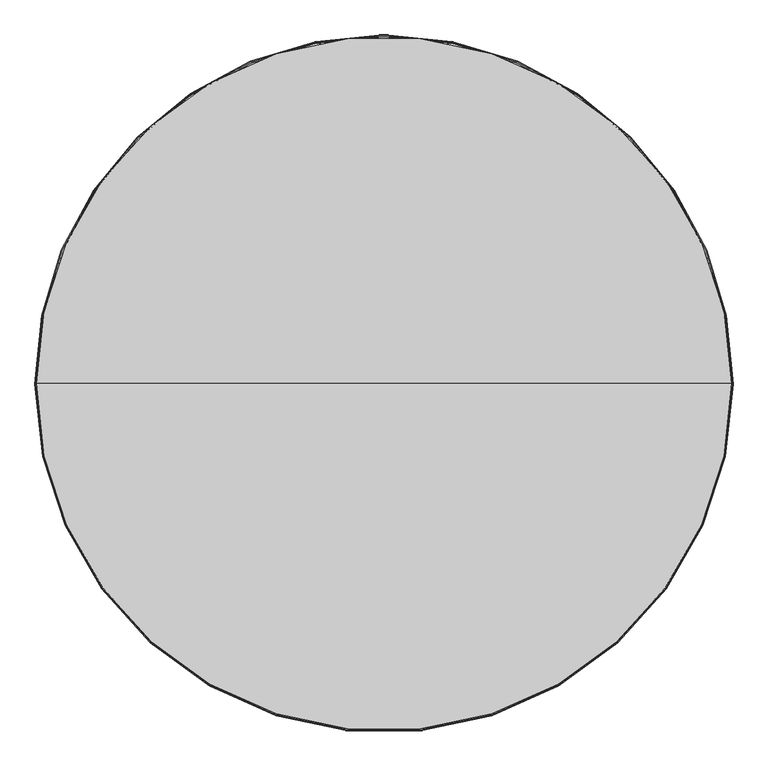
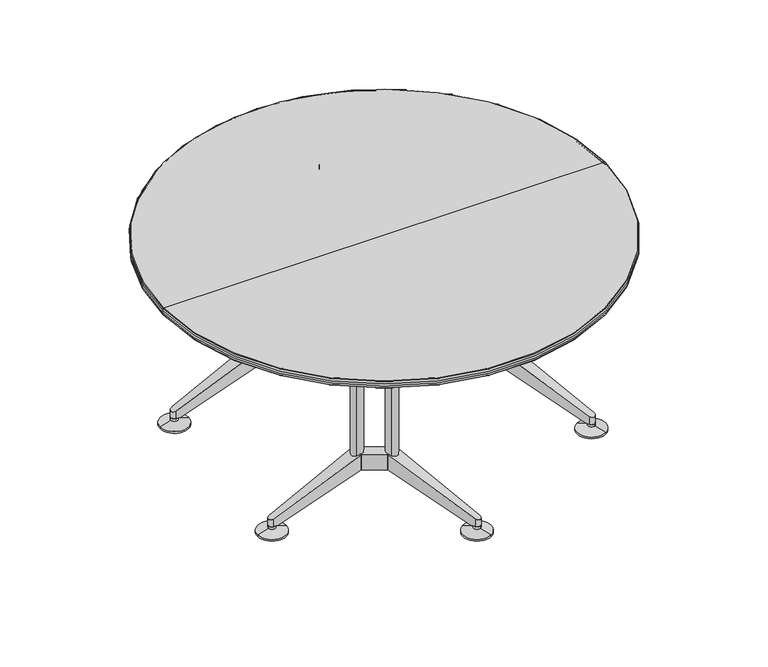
"""IFC4 building model written with IfcOpenShell, lengths in millimetres: furniture geometry, Furniture_Wilkhahn_621-35_Logon Circular Table : Logon 621/35_1550D x 730H."""

from ifc_helpers import new_model, si_unit, point, frame, frame_2d, origin, place, context, project, spatial, polyline, circle_curve, ellipse_curve, trimmed, segment, composite_curve, outline, extrude, source, transform, mapped, element, save
from ifc_brep_helpers import plane_surface, cylinder_surface, revolved_surface, advanced_brep


def furniture_2437987b(model_context):
    return source(origin(), model_context, "Body", "SolidModel", [
        extrude(outline(polyline([(-161.6540581, 420.9454962), (-118.3527879, 395.9454962), (-231.8021158, 330.4454962), (-231.8021158, 380.4454962), (-161.6540581, 420.9454962)])), frame((0.0, 0.0, 140.0), z_axis=(0.0, 0.0, 1.0), x_axis=(1.0, 0.0, 0.0)), (0.0, 0.0, 1.0), 55.0),
        advanced_brep(
        [(-118.3527879, 395.9454962, 195.0), (19.815554, 660.3308471, 56.1717347), (14.996577, 676.9133714, 50.6048844), (-1.7737987, 672.7954657, 56.1717347), (-161.6540581, 420.9454962, 195.0), (-8.7472377, 661.8106174, 27.0), (-1.7737987, 672.7954657, 27.0), (14.996577, 676.9133714, 27.0), (19.815554, 660.3308471, 27.0), (13.7891158, 648.7992476, 27.0), (-161.6540581, 420.9454962, 140.0), (-118.3527879, 395.9454962, 140.0)],
        [
            (0, 1),
            (1, 2, ellipse_curve(frame((8.758758, 666.109152, 56.4159205), z_axis=(0.2111166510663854, 0.3656647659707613, 0.9064871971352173), x_axis=(0.4532435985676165, 0.7850409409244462, -0.4222333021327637)), 13.7626191, 12.475638)),
            (2, 3, ellipse_curve(frame((8.758758, 666.109152, 56.4159205), z_axis=(0.2111166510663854, 0.3656647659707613, 0.9064871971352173), x_axis=(0.4532435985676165, 0.7850409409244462, -0.4222333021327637)), 13.7626191, 12.475638)),
            (3, 4),
            (4, 0),
            (5, 6),
            (6, 7, circle_curve(frame((8.758758, 666.109152, 27.0), z_axis=(0.0, 0.0, -1.0), x_axis=(-0.8660254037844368, 0.5000000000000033, 0.0)), 12.475638)),
            (7, 8, circle_curve(frame((8.758758, 666.109152, 27.0), z_axis=(0.0, 0.0, -1.0), x_axis=(-0.8660254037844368, 0.5000000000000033, 0.0)), 12.475638)),
            (8, 9),
            (9, 5),
            (10, 5),
            (9, 11),
            (11, 10),
            (4, 10),
            (11, 0),
            (3, 6),
            (8, 1),
        ],
        [
            plane_surface(frame((-6.6540581, 689.4133714, 50.6048844), z_axis=(0.21111665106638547, 0.36566476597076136, 0.9064871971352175), x_axis=(0.8660254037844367, -0.5000000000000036, 0.0))),
            plane_surface(frame((-19.1296961, 667.8049325, 27.0), z_axis=(0.0, 0.0, -1.0000000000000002), x_axis=(0.8660254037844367, -0.5000000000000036, 0.0))),
            plane_surface(frame((-161.6540581, 420.9454962, 140.0), z_axis=(-0.18426133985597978, -0.3191500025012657, -0.9296187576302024), x_axis=(0.866025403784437, -0.5000000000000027, 0.0))),
            plane_surface(frame((-161.6540581, 420.9454962, 195.0), z_axis=(-0.5000000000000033, -0.8660254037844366, 0.0), x_axis=(0.8660254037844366, -0.5000000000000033, 0.0))),
            plane_surface(frame((-1.7737987, 672.7954657, 195.0), z_axis=(-0.8442499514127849, 0.5359496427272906, 0.0), x_axis=(0.0, 0.0, -1.0))),
            plane_surface(frame((-118.3527879, 395.9454962, 195.0), z_axis=(0.8862709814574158, -0.4631670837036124, 0.0), x_axis=(0.0, 0.0, -1.0))),
            cylinder_surface(frame((8.758758, 666.109152, 0.0), z_axis=(0.0, 0.0, -1.0), x_axis=(-0.8660254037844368, 0.5000000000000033, 0.0)), 12.475638),
        ],
        [
            (0, [[1, 2, 3, 4, 5]]),
            (1, [[6, 7, 8, 9, 10]]),
            (2, [[11, -10, 12, 13]]),
            (3, [[14, -13, 15, -5]]),
            (4, [[-6, -11, -14, -4, 16]]),
            (5, [[-1, -15, -12, -9, 17]]),
            (6, [[-3, -2, -17, -8, -7, -16]]),
        ],
    ),
        advanced_brep(
        [(-529.3264778, 355.4454962, 0.0), (-479.3264778, 355.4454962, 0.0), (-579.3264778, 355.4454962, 0.0), (-479.3264778, 355.4454962, 6.0), (-579.3264778, 355.4454962, 6.0), (-516.8508397, 355.4454962, 17.0), (-541.8021158, 355.4454962, 17.0), (-516.8508397, 355.4454962, 27.0), (-541.8021158, 355.4454962, 27.0), (-529.3264778, 355.4454962, 27.0)],
        [
            (0, 1),
            (1, 2, circle_curve(frame((-529.3264778, 355.4454962, 0.0), z_axis=(0.0, 0.0, -1.0), x_axis=(-1.0000000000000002, 0.0, 0.0)), 50.0)),
            (2, 0),
            (2, 1, circle_curve(frame((-529.3264778, 355.4454962, 0.0), z_axis=(0.0, 0.0, -1.0), x_axis=(-1.0000000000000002, 0.0, 0.0)), 50.0)),
            (1, 3),
            (3, 4, circle_curve(frame((-529.3264778, 355.4454962, 6.0), z_axis=(0.0, 0.0, -1.0), x_axis=(-1.0000000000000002, 0.0, 0.0)), 50.0)),
            (4, 2),
            (4, 3, circle_curve(frame((-529.3264778, 355.4454962, 6.0), z_axis=(0.0, 0.0, -1.0), x_axis=(-1.0000000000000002, 0.0, 0.0)), 50.0)),
            (3, 5),
            (5, 6, circle_curve(frame((-529.3264778, 355.4454962, 17.0), z_axis=(0.0, 0.0, -1.0), x_axis=(-1.0000000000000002, 0.0, 0.0)), 12.475638)),
            (6, 4),
            (6, 5, circle_curve(frame((-529.3264778, 355.4454962, 17.0), z_axis=(0.0, 0.0, -1.0), x_axis=(-1.0000000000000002, 0.0, 0.0)), 12.475638)),
            (5, 7),
            (7, 8, circle_curve(frame((-529.3264778, 355.4454962, 27.0), z_axis=(0.0, 0.0, -1.0), x_axis=(-1.0000000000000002, 0.0, 0.0)), 12.475638)),
            (8, 6),
            (8, 7, circle_curve(frame((-529.3264778, 355.4454962, 27.0), z_axis=(0.0, 0.0, -1.0), x_axis=(-1.0000000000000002, 0.0, 0.0)), 12.475638)),
            (7, 9),
            (9, 8),
        ],
        [
            plane_surface(frame((-529.3264778, 355.4454962, 0.0), z_axis=(0.0, 0.0, -1.0), x_axis=(-1.0, 0.0, 0.0))),
            cylinder_surface(frame((-529.3264778, 355.4454962, 27.0), z_axis=(0.0, 0.0, -1.0), x_axis=(-1.0000000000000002, 0.0, 0.0)), 50.0),
            revolved_surface(polyline([(-541.8021158, 355.4454962, 17.0), (-579.3264778, 355.4454962, 6.0)]), (-529.3264778, 355.4454962, 27.0), (0.0, 0.0, -1.0)),
            cylinder_surface(frame((-529.3264778, 355.4454962, 27.0), z_axis=(0.0, 0.0, -1.0), x_axis=(-1.0000000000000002, 0.0, 0.0)), 12.475638),
            plane_surface(frame((-529.3264778, 355.4454962, 27.0), z_axis=(0.0, 0.0, 1.0), x_axis=(-1.0, 0.0, 0.0))),
        ],
        [
            (0, [[1, 2, 3]]),
            (0, [[-3, 4, -1]]),
            (1, [[5, 6, 7, -2]]),
            (1, [[-7, 8, -5, -4]]),
            (2, [[9, 10, 11, -6]]),
            (2, [[-11, 12, -9, -8]]),
            (3, [[13, 14, 15, -10]]),
            (3, [[-15, 16, -13, -12]]),
            (4, [[17, 18, -14]]),
            (4, [[-18, -17, -16]]),
        ],
    ),
        advanced_brep(
        [(-16.241242, 622.8078818, 0.0), (8.758758, 666.109152, 0.0), (33.758758, 709.4104221, 0.0), (-16.241242, 622.8078818, 6.0), (33.758758, 709.4104221, 6.0), (2.520939, 655.3049325, 17.0), (14.996577, 676.9133714, 17.0), (2.520939, 655.3049325, 27.0), (14.996577, 676.9133714, 27.0), (8.758758, 666.109152, 27.0)],
        [
            (0, 1),
            (1, 2),
            (2, 0, circle_curve(frame((8.758758, 666.109152, 0.0), z_axis=(0.0, 0.0, -1.0), x_axis=(0.5000000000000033, 0.8660254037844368, 0.0)), 50.0)),
            (0, 2, circle_curve(frame((8.758758, 666.109152, 0.0), z_axis=(0.0, 0.0, -1.0), x_axis=(0.5000000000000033, 0.8660254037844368, 0.0)), 50.0)),
            (3, 0),
            (2, 4),
            (4, 3, circle_curve(frame((8.758758, 666.109152, 6.0), z_axis=(0.0, 0.0, -1.0), x_axis=(0.5000000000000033, 0.8660254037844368, 0.0)), 50.0)),
            (3, 4, circle_curve(frame((8.758758, 666.109152, 6.0), z_axis=(0.0, 0.0, -1.0), x_axis=(0.5000000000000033, 0.8660254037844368, 0.0)), 50.0)),
            (5, 3),
            (4, 6),
            (6, 5, circle_curve(frame((8.758758, 666.109152, 17.0), z_axis=(0.0, 0.0, -1.0), x_axis=(0.5000000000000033, 0.8660254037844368, 0.0)), 12.475638)),
            (5, 6, circle_curve(frame((8.758758, 666.109152, 17.0), z_axis=(0.0, 0.0, -1.0), x_axis=(0.5000000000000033, 0.8660254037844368, 0.0)), 12.475638)),
            (7, 5),
            (6, 8),
            (8, 7, circle_curve(frame((8.758758, 666.109152, 27.0), z_axis=(0.0, 0.0, -1.0), x_axis=(0.5000000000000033, 0.8660254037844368, 0.0)), 12.475638)),
            (7, 8, circle_curve(frame((8.758758, 666.109152, 27.0), z_axis=(0.0, 0.0, -1.0), x_axis=(0.5000000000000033, 0.8660254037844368, 0.0)), 12.475638)),
            (9, 7),
            (8, 9),
        ],
        [
            plane_surface(frame((8.758758, 666.109152, 0.0), z_axis=(0.0, 0.0, -1.0000000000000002), x_axis=(0.5000000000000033, 0.8660254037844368, 0.0))),
            cylinder_surface(frame((8.758758, 666.109152, 27.0), z_axis=(0.0, 0.0, 1.0), x_axis=(0.5000000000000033, 0.8660254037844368, 0.0)), 50.0),
            revolved_surface(polyline([(33.758758, 709.4104221, 6.0), (14.996577, 676.9133714, 17.0)]), (8.758758, 666.109152, 27.0), (0.0, 0.0, 1.0)),
            cylinder_surface(frame((8.758758, 666.109152, 27.0), z_axis=(0.0, 0.0, 1.0), x_axis=(0.5000000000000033, 0.8660254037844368, 0.0)), 12.475638),
            plane_surface(frame((8.758758, 666.109152, 27.0), z_axis=(0.0, 0.0, 1.0000000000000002), x_axis=(0.5000000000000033, 0.8660254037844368, 0.0))),
        ],
        [
            (0, [[1, 2, 3]]),
            (0, [[-2, -1, 4]]),
            (1, [[5, -3, 6, 7]]),
            (1, [[-6, -4, -5, 8]]),
            (2, [[9, -7, 10, 11]]),
            (2, [[-10, -8, -9, 12]]),
            (3, [[13, -11, 14, 15]]),
            (3, [[-14, -12, -13, 16]]),
            (4, [[17, -15, 18]]),
            (4, [[-18, -16, -17]]),
        ],
    ),
        extrude(outline(composite_curve([segment(polyline([(-244.3021158, 377.0961313), (-152.503423, 430.0961313), (-24.6475253, 534.7627561)]), True, "CONTINUOUS"), segment(trimmed(circle_curve(frame_2d((-17.0461814, 525.4773067)), 12.0), [point((-24.6475253, 534.7627561))], [point((-6.6538766, 531.4773067))], False, "CARTESIAN"), True, "CONTINUOUS"), segment(polyline([(-6.6538766, 531.4773067), (33.2200236, 462.4136858)]), True, "CONTINUOUS"), segment(trimmed(circle_curve(frame_2d((22.8277187, 456.4136858)), 12.0), [point((33.2200236, 462.4136858))], [point((27.0684818, 445.1880041))], False, "CARTESIAN"), True, "CONTINUOUS"), segment(polyline([(27.0684818, 445.1880041), (-127.503423, 386.7948611), (-219.3021158, 333.7948611), (-347.1580134, 229.1282364)]), True, "CONTINUOUS"), segment(trimmed(circle_curve(frame_2d((-354.7593573, 238.4136858)), 12.0), [point((-347.1580134, 229.1282364))], [point((-365.1516622, 232.4136858))], False, "CARTESIAN"), True, "CONTINUOUS"), segment(polyline([(-365.1516622, 232.4136858), (-405.0255623, 301.4773067)]), True, "CONTINUOUS"), segment(trimmed(circle_curve(frame_2d((-394.6332574, 307.4773067)), 12.0), [point((-405.0255623, 301.4773067))], [point((-398.8740206, 318.7029883))], False, "CARTESIAN"), True, "CONTINUOUS"), segment(polyline([(-398.8740206, 318.7029883), (-244.3021158, 377.0961313)]), True, "CONTINUOUS")], self_intersect=False)), frame((0.0, 0.0, 675.0), z_axis=(0.0, 0.0, 1.0), x_axis=(1.0, 0.0, 0.0)), (0.0, 0.0, 1.0), 29.0),
        advanced_brep(
        [(-529.8507169, 367.9101148, 56.1717347), (-231.8021158, 380.4454962, 195.0), (-231.8021158, 380.4454962, 140.0), (-516.8508397, 368.456866, 27.0), (-529.8507169, 367.9101148, 27.0), (-529.8507169, 342.9808776, 27.0), (-516.8508397, 342.4341265, 27.0), (-231.8021158, 330.4454962, 140.0), (-231.8021158, 330.4454962, 195.0), (-529.8507169, 342.9808776, 56.1717347), (-541.8021158, 355.4454962, 50.6048844), (-541.8021158, 355.4454962, 27.0)],
        [
            (0, 1),
            (1, 2),
            (2, 3),
            (3, 4),
            (4, 0),
            (5, 6),
            (6, 7),
            (7, 8),
            (8, 9),
            (9, 5),
            (0, 10, ellipse_curve(frame((-529.3264778, 355.4454962, 56.4159205), z_axis=(-0.4222333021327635, 0.0, 0.9064871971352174), x_axis=(-0.9064871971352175, 0.0, -0.4222333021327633)), 13.7626191, 12.475638)),
            (10, 9, ellipse_curve(frame((-529.3264778, 355.4454962, 56.4159205), z_axis=(-0.4222333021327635, 0.0, 0.9064871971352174), x_axis=(-0.9064871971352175, 0.0, -0.4222333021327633)), 13.7626191, 12.475638)),
            (8, 1),
            (5, 11, circle_curve(frame((-529.3264778, 355.4454962, 27.0), z_axis=(0.0, 0.0, -1.0), x_axis=(0.0, 1.0000000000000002, 0.0)), 12.475638)),
            (11, 4, circle_curve(frame((-529.3264778, 355.4454962, 27.0), z_axis=(0.0, 0.0, -1.0), x_axis=(0.0, 1.0000000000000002, 0.0)), 12.475638)),
            (3, 6),
            (2, 7),
        ],
        [
            plane_surface(frame((-231.8021158, 380.4454962, 195.0), z_axis=(-0.04202103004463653, 0.999116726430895, 0.0), x_axis=(0.0, 0.0, -1.0))),
            plane_surface(frame((-529.8507169, 342.9808776, 195.0), z_axis=(-0.042021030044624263, -0.9991167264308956, 0.0), x_axis=(0.0, 0.0, -1.0))),
            plane_surface(frame((-231.8021158, 380.4454962, 195.0), z_axis=(-0.4222333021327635, 0.0, 0.9064871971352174), x_axis=(0.0, -1.0, 0.0))),
            plane_surface(frame((-541.8021158, 380.4454962, 27.0), z_axis=(0.0, 0.0, -1.0), x_axis=(0.0, -1.0, 0.0))),
            plane_surface(frame((-516.8508397, 380.4454962, 27.0), z_axis=(0.36852267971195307, 0.0, -0.9296187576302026), x_axis=(0.0, -1.0, 0.0))),
            cylinder_surface(frame((-529.3264778, 355.4454962, 0.0), z_axis=(0.0, 0.0, -1.0), x_axis=(0.0, 1.0000000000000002, 0.0)), 12.475638),
            plane_surface(frame((-231.8021158, 380.4454962, 140.0), z_axis=(1.0, 0.0, 0.0), x_axis=(0.0, -1.0, 0.0))),
        ],
        [
            (0, [[1, 2, 3, 4, 5]]),
            (1, [[6, 7, 8, 9, 10]]),
            (2, [[-1, 11, 12, -9, 13]]),
            (3, [[-6, 14, 15, -4, 16]]),
            (4, [[-7, -16, -3, 17]]),
            (5, [[-12, -11, -5, -15, -14, -10]]),
            (6, [[-8, -17, -2, -13]]),
        ],
    ),
        extrude(outline(composite_curve([segment(trimmed(circle_curve(frame_2d((-231.8021158, 355.4454962)), 20.0), [point((-221.8021158, 338.1249882))], [point((-241.8021158, 372.7660043))], False, "CARTESIAN"), True, "CONTINUOUS"), segment(trimmed(circle_curve(frame_2d((-231.8021158, 355.4454962)), 20.0), [point((-241.8021158, 372.7660043))], [point((-221.8021158, 338.1249882))], False, "CARTESIAN"), True, "CONTINUOUS")], self_intersect=False)), frame((0.0, 0.0, 140.0), z_axis=(0.0, 0.0, 1.0), x_axis=(1.0, 0.0, 0.0)), (0.0, 0.0, 1.0), 535.0),
        extrude(outline(composite_curve([segment(trimmed(circle_curve(frame_2d((-140.003423, 408.4454962)), 20.0), [point((-130.003423, 391.1249882))], [point((-150.003423, 425.7660043))], False, "CARTESIAN"), True, "CONTINUOUS"), segment(trimmed(circle_curve(frame_2d((-140.003423, 408.4454962)), 20.0), [point((-150.003423, 425.7660043))], [point((-130.003423, 391.1249882))], False, "CARTESIAN"), True, "CONTINUOUS")], self_intersect=False)), frame((0.0, 0.0, 140.0), z_axis=(0.0, 0.0, 1.0), x_axis=(1.0, 0.0, 0.0)), (0.0, 0.0, 1.0), 535.0),
        extrude(outline(polyline([(-261.2481053, -311.5425374), (-261.2481053, -261.5425374), (-147.7987774, -327.0425374), (-191.1000476, -352.0425374), (-261.2481053, -311.5425374)])), frame((0.0, 0.0, 140.0), z_axis=(0.0, 0.0, 1.0), x_axis=(1.0, 0.0, 0.0)), (0.0, 0.0, 1.0), 55.0),
        advanced_brep(
        [(-261.2481053, -261.5425374, 195.0), (-559.2967065, -274.0779188, 56.1717347), (-571.2481053, -286.5425374, 50.6048844), (-559.2967065, -299.007156, 56.1717347), (-261.2481053, -311.5425374, 195.0), (-546.2968293, -299.5539071, 27.0), (-559.2967065, -299.007156, 27.0), (-571.2481053, -286.5425374, 27.0), (-559.2967065, -274.0779188, 27.0), (-546.2968293, -273.5311676, 27.0), (-261.2481053, -311.5425374, 140.0), (-261.2481053, -261.5425374, 140.0)],
        [
            (0, 1),
            (1, 2, ellipse_curve(frame((-558.7724673, -286.5425374, 56.4159205), z_axis=(-0.42223330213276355, 0.0, 0.9064871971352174), x_axis=(-0.9064871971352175, 0.0, -0.4222333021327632)), 13.7626191, 12.475638)),
            (2, 3, ellipse_curve(frame((-558.7724673, -286.5425374, 56.4159205), z_axis=(-0.42223330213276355, 0.0, 0.9064871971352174), x_axis=(-0.9064871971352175, 0.0, -0.4222333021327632)), 13.7626191, 12.475638)),
            (3, 4),
            (4, 0),
            (5, 6),
            (6, 7, circle_curve(frame((-558.7724673, -286.5425374, 27.0), z_axis=(0.0, 0.0, -1.0), x_axis=(0.0, -1.0, 0.0)), 12.475638)),
            (7, 8, circle_curve(frame((-558.7724673, -286.5425374, 27.0), z_axis=(0.0, 0.0, -1.0), x_axis=(0.0, -1.0, 0.0)), 12.475638)),
            (8, 9),
            (9, 5),
            (10, 5),
            (9, 11),
            (11, 10),
            (4, 10),
            (11, 0),
            (3, 6),
            (8, 1),
        ],
        [
            plane_surface(frame((-571.2481053, -311.5425374, 50.6048844), z_axis=(-0.42223330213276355, 0.0, 0.9064871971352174), x_axis=(0.0, 1.0, 0.0))),
            plane_surface(frame((-546.2968293, -311.5425374, 27.0), z_axis=(0.0, 0.0, -1.0), x_axis=(0.0, 1.0, 0.0))),
            plane_surface(frame((-261.2481053, -311.5425374, 140.0), z_axis=(0.3685226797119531, 0.0, -0.9296187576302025), x_axis=(0.0, 1.0, 0.0))),
            plane_surface(frame((-261.2481053, -311.5425374, 195.0), z_axis=(1.0, 0.0, 0.0), x_axis=(0.0, 1.0, 0.0))),
            plane_surface(frame((-559.2967065, -299.007156, 195.0), z_axis=(-0.04202103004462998, -0.9991167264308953, 0.0), x_axis=(0.0, 0.0, -1.0))),
            plane_surface(frame((-261.2481053, -261.5425374, 195.0), z_axis=(-0.042021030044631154, 0.9991167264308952, 0.0), x_axis=(0.0, 0.0, -1.0))),
            cylinder_surface(frame((-558.7724673, -286.5425374, 0.0), z_axis=(0.0, 0.0, -1.0), x_axis=(0.0, -1.0, 0.0)), 12.475638),
        ],
        [
            (0, [[1, 2, 3, 4, 5]]),
            (1, [[6, 7, 8, 9, 10]]),
            (2, [[11, -10, 12, 13]]),
            (3, [[14, -13, 15, -5]]),
            (4, [[-6, -11, -14, -4, 16]]),
            (5, [[-1, -15, -12, -9, 17]]),
            (6, [[-3, -2, -17, -8, -7, -16]]),
        ],
    ),
        advanced_brep(
        [(-20.6872315, -597.2061931, 0.0), (-45.6872315, -553.9049229, 0.0), (4.3127685, -640.5074633, 0.0), (-45.6872315, -553.9049229, 6.0), (4.3127685, -640.5074633, 6.0), (-26.9250505, -586.4019737, 17.0), (-14.4494125, -608.0104125, 17.0), (-26.9250505, -586.4019737, 27.0), (-14.4494125, -608.0104125, 27.0), (-20.6872315, -597.2061931, 27.0)],
        [
            (0, 1),
            (1, 2, circle_curve(frame((-20.6872315, -597.2061931, 0.0), z_axis=(0.0, 0.0, -1.0), x_axis=(0.500000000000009, -0.8660254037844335, 0.0)), 50.0)),
            (2, 0),
            (2, 1, circle_curve(frame((-20.6872315, -597.2061931, 0.0), z_axis=(0.0, 0.0, -1.0), x_axis=(0.500000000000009, -0.8660254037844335, 0.0)), 50.0)),
            (1, 3),
            (3, 4, circle_curve(frame((-20.6872315, -597.2061931, 6.0), z_axis=(0.0, 0.0, -1.0), x_axis=(0.500000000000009, -0.8660254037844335, 0.0)), 50.0)),
            (4, 2),
            (4, 3, circle_curve(frame((-20.6872315, -597.2061931, 6.0), z_axis=(0.0, 0.0, -1.0), x_axis=(0.500000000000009, -0.8660254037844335, 0.0)), 50.0)),
            (3, 5),
            (5, 6, circle_curve(frame((-20.6872315, -597.2061931, 17.0), z_axis=(0.0, 0.0, -1.0), x_axis=(0.500000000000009, -0.8660254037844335, 0.0)), 12.475638)),
            (6, 4),
            (6, 5, circle_curve(frame((-20.6872315, -597.2061931, 17.0), z_axis=(0.0, 0.0, -1.0), x_axis=(0.500000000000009, -0.8660254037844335, 0.0)), 12.475638)),
            (5, 7),
            (7, 8, circle_curve(frame((-20.6872315, -597.2061931, 27.0), z_axis=(0.0, 0.0, -1.0), x_axis=(0.500000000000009, -0.8660254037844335, 0.0)), 12.475638)),
            (8, 6),
            (8, 7, circle_curve(frame((-20.6872315, -597.2061931, 27.0), z_axis=(0.0, 0.0, -1.0), x_axis=(0.500000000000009, -0.8660254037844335, 0.0)), 12.475638)),
            (7, 9),
            (9, 8),
        ],
        [
            plane_surface(frame((-20.6872315, -597.2061931, 0.0), z_axis=(0.0, 0.0, -1.0), x_axis=(0.500000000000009, -0.8660254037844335, 0.0))),
            cylinder_surface(frame((-20.6872315, -597.2061931, 27.0), z_axis=(0.0, 0.0, -1.0), x_axis=(0.500000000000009, -0.8660254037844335, 0.0)), 50.0),
            revolved_surface(polyline([(-14.4494125, -608.0104125, 17.0), (4.3127685, -640.5074633, 6.0)]), (-20.6872315, -597.2061931, 27.0), (0.0, 0.0, -1.0)),
            cylinder_surface(frame((-20.6872315, -597.2061931, 27.0), z_axis=(0.0, 0.0, -1.0), x_axis=(0.500000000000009, -0.8660254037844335, 0.0)), 12.475638),
            plane_surface(frame((-20.6872315, -597.2061931, 27.0), z_axis=(0.0, 0.0, 1.0), x_axis=(0.500000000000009, -0.8660254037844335, 0.0))),
        ],
        [
            (0, [[1, 2, 3]]),
            (0, [[-3, 4, -1]]),
            (1, [[5, 6, 7, -2]]),
            (1, [[-7, 8, -5, -4]]),
            (2, [[9, 10, 11, -6]]),
            (2, [[-11, 12, -9, -8]]),
            (3, [[13, 14, 15, -10]]),
            (3, [[-15, 16, -13, -12]]),
            (4, [[17, 18, -14]]),
            (4, [[-18, -17, -16]]),
        ],
    ),
        advanced_brep(
        [(-508.7724673, -286.5425374, 0.0), (-558.7724673, -286.5425374, 0.0), (-608.7724673, -286.5425374, 0.0), (-508.7724673, -286.5425374, 6.0), (-608.7724673, -286.5425374, 6.0), (-546.2968293, -286.5425374, 17.0), (-571.2481053, -286.5425374, 17.0), (-546.2968293, -286.5425374, 27.0), (-571.2481053, -286.5425374, 27.0), (-558.7724673, -286.5425374, 27.0)],
        [
            (0, 1),
            (1, 2),
            (2, 0, circle_curve(frame((-558.7724673, -286.5425374, 0.0), z_axis=(0.0, 0.0, -1.0), x_axis=(-1.0, 0.0, 0.0)), 50.0)),
            (0, 2, circle_curve(frame((-558.7724673, -286.5425374, 0.0), z_axis=(0.0, 0.0, -1.0), x_axis=(-1.0, 0.0, 0.0)), 50.0)),
            (3, 0),
            (2, 4),
            (4, 3, circle_curve(frame((-558.7724673, -286.5425374, 6.0), z_axis=(0.0, 0.0, -1.0), x_axis=(-1.0, 0.0, 0.0)), 50.0)),
            (3, 4, circle_curve(frame((-558.7724673, -286.5425374, 6.0), z_axis=(0.0, 0.0, -1.0), x_axis=(-1.0, 0.0, 0.0)), 50.0)),
            (5, 3),
            (4, 6),
            (6, 5, circle_curve(frame((-558.7724673, -286.5425374, 17.0), z_axis=(0.0, 0.0, -1.0), x_axis=(-1.0, 0.0, 0.0)), 12.475638)),
            (5, 6, circle_curve(frame((-558.7724673, -286.5425374, 17.0), z_axis=(0.0, 0.0, -1.0), x_axis=(-1.0, 0.0, 0.0)), 12.475638)),
            (7, 5),
            (6, 8),
            (8, 7, circle_curve(frame((-558.7724673, -286.5425374, 27.0), z_axis=(0.0, 0.0, -1.0), x_axis=(-1.0, 0.0, 0.0)), 12.475638)),
            (7, 8, circle_curve(frame((-558.7724673, -286.5425374, 27.0), z_axis=(0.0, 0.0, -1.0), x_axis=(-1.0, 0.0, 0.0)), 12.475638)),
            (9, 7),
            (8, 9),
        ],
        [
            plane_surface(frame((-558.7724673, -286.5425374, 0.0), z_axis=(0.0, 0.0, -1.0), x_axis=(-1.0, 0.0, 0.0))),
            cylinder_surface(frame((-558.7724673, -286.5425374, 27.0), z_axis=(0.0, 0.0, 1.0), x_axis=(-1.0, 0.0, 0.0)), 50.0),
            revolved_surface(polyline([(-608.7724673, -286.5425374, 6.0), (-571.2481053, -286.5425374, 17.0)]), (-558.7724673, -286.5425374, 27.0), (0.0, 0.0, 1.0)),
            cylinder_surface(frame((-558.7724673, -286.5425374, 27.0), z_axis=(0.0, 0.0, 1.0), x_axis=(-1.0, 0.0, 0.0)), 12.475638),
            plane_surface(frame((-558.7724673, -286.5425374, 27.0), z_axis=(0.0, 0.0, 1.0), x_axis=(-1.0, 0.0, 0.0))),
        ],
        [
            (0, [[1, 2, 3]]),
            (0, [[-2, -1, 4]]),
            (1, [[5, -3, 6, 7]]),
            (1, [[-6, -4, -5, 8]]),
            (2, [[9, -7, 10, 11]]),
            (2, [[-10, -8, -9, 12]]),
            (3, [[13, -11, 14, 15]]),
            (3, [[-14, -12, -13, 16]]),
            (4, [[17, -15, 18]]),
            (4, [[-18, -16, -17]]),
        ],
    ),
        extrude(outline(composite_curve([segment(polyline([(-181.9494125, -361.1931725), (-273.7481053, -308.1931725), (-428.3200101, -249.8000295)]), True, "CONTINUOUS"), segment(trimmed(circle_curve(frame_2d((-424.079247, -238.5743478)), 12.0), [point((-428.3200101, -249.8000295))], [point((-434.4715518, -232.5743478))], False, "CARTESIAN"), True, "CONTINUOUS"), segment(polyline([(-434.4715518, -232.5743478), (-394.5976517, -163.5107269)]), True, "CONTINUOUS"), segment(trimmed(circle_curve(frame_2d((-384.2053469, -169.5107269)), 12.0), [point((-394.5976517, -163.5107269))], [point((-376.604003, -160.2252775))], False, "CARTESIAN"), True, "CONTINUOUS"), segment(polyline([(-376.604003, -160.2252775), (-248.7481053, -264.8919023), (-156.9494125, -317.8919023), (-2.3775077, -376.2850453)]), True, "CONTINUOUS"), segment(trimmed(circle_curve(frame_2d((-6.6182708, -387.5107269)), 12.0), [point((-2.3775077, -376.2850453))], [point((3.774034, -393.5107269))], False, "CARTESIAN"), True, "CONTINUOUS"), segment(polyline([(3.774034, -393.5107269), (-36.0998661, -462.5743478)]), True, "CONTINUOUS"), segment(trimmed(circle_curve(frame_2d((-46.492171, -456.5743478)), 12.0), [point((-36.0998661, -462.5743478))], [point((-54.0935149, -465.8597972))], False, "CARTESIAN"), True, "CONTINUOUS"), segment(polyline([(-54.0935149, -465.8597972), (-181.9494125, -361.1931725)]), True, "CONTINUOUS")], self_intersect=False)), frame((0.0, 0.0, 675.0), z_axis=(0.0, 0.0, 1.0), x_axis=(1.0, 0.0, 0.0)), (0.0, 0.0, 1.0), 29.0),
        advanced_brep(
        [(-31.2197883, -603.8925068, 56.1717347), (-191.1000476, -352.0425374, 195.0), (-191.1000476, -352.0425374, 140.0), (-38.1932273, -592.9076585, 27.0), (-31.2197883, -603.8925068, 27.0), (-9.6304356, -591.4278882, 27.0), (-15.6568738, -579.8962888, 27.0), (-147.7987774, -327.0425374, 140.0), (-147.7987774, -327.0425374, 195.0), (-9.6304356, -591.4278882, 56.1717347), (-14.4494125, -608.0104125, 50.6048844), (-14.4494125, -608.0104125, 27.0)],
        [
            (0, 1),
            (1, 2),
            (2, 3),
            (3, 4),
            (4, 0),
            (5, 6),
            (6, 7),
            (7, 8),
            (8, 9),
            (9, 5),
            (0, 10, ellipse_curve(frame((-20.6872315, -597.2061931, 56.4159205), z_axis=(0.2111166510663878, -0.36566476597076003, 0.9064871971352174), x_axis=(0.4532435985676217, -0.7850409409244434, -0.4222333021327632)), 13.7626191, 12.475638)),
            (10, 9, ellipse_curve(frame((-20.6872315, -597.2061931, 56.4159205), z_axis=(0.2111166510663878, -0.36566476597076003, 0.9064871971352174), x_axis=(0.4532435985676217, -0.7850409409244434, -0.4222333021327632)), 13.7626191, 12.475638)),
            (8, 1),
            (5, 11, circle_curve(frame((-20.6872315, -597.2061931, 27.0), z_axis=(0.0, 0.0, -1.0), x_axis=(-0.8660254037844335, -0.500000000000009, 0.0)), 12.475638)),
            (11, 4, circle_curve(frame((-20.6872315, -597.2061931, 27.0), z_axis=(0.0, 0.0, -1.0), x_axis=(-0.8660254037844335, -0.500000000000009, 0.0)), 12.475638)),
            (3, 6),
            (2, 7),
        ],
        [
            plane_surface(frame((-191.1000476, -352.0425374, 195.0), z_axis=(-0.8442499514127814, -0.5359496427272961, 0.0), x_axis=(0.0, 0.0, -1.0))),
            plane_surface(frame((-9.6304356, -591.4278882, 195.0), z_axis=(0.8862709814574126, 0.4631670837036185, 0.0), x_axis=(0.0, 0.0, -1.0))),
            plane_surface(frame((-191.1000476, -352.0425374, 195.0), z_axis=(0.2111166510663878, -0.36566476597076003, 0.9064871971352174), x_axis=(0.8660254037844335, 0.500000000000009, 0.0))),
            plane_surface(frame((-36.1000476, -620.5104125, 27.0), z_axis=(0.0, 0.0, -0.9999999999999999), x_axis=(0.8660254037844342, 0.5000000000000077, 0.0))),
            plane_surface(frame((-48.5756856, -598.9019737, 27.0), z_axis=(-0.18426133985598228, 0.3191500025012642, -0.9296187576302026), x_axis=(0.8660254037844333, 0.5000000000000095, 0.0))),
            cylinder_surface(frame((-20.6872315, -597.2061931, 0.0), z_axis=(0.0, 0.0, -1.0), x_axis=(-0.8660254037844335, -0.500000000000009, 0.0)), 12.475638),
            plane_surface(frame((-191.1000476, -352.0425374, 140.0), z_axis=(-0.5000000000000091, 0.8660254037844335, 0.0), x_axis=(0.8660254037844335, 0.5000000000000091, 0.0))),
        ],
        [
            (0, [[1, 2, 3, 4, 5]]),
            (1, [[6, 7, 8, 9, 10]]),
            (2, [[-1, 11, 12, -9, 13]]),
            (3, [[-6, 14, 15, -4, 16]]),
            (4, [[-7, -16, -3, 17]]),
            (5, [[-12, -11, -5, -15, -14, -10]]),
            (6, [[-8, -17, -2, -13]]),
        ],
    ),
        extrude(outline(composite_curve([segment(trimmed(circle_curve(frame_2d((-169.4494125, -339.5425374)), 20.0), [point((-159.4494125, -322.2220293))], [point((-179.4494125, -356.8630454))], False, "CARTESIAN"), True, "CONTINUOUS"), segment(trimmed(circle_curve(frame_2d((-169.4494125, -339.5425374)), 20.0), [point((-179.4494125, -356.8630454))], [point((-159.4494125, -322.2220293))], False, "CARTESIAN"), True, "CONTINUOUS")], self_intersect=False)), frame((0.0, 0.0, 140.0), z_axis=(0.0, 0.0, 1.0), x_axis=(1.0, 0.0, 0.0)), (0.0, 0.0, 1.0), 535.0),
        extrude(outline(composite_curve([segment(trimmed(circle_curve(frame_2d((-261.2481053, -286.5425374)), 20.0), [point((-251.2481053, -269.2220293))], [point((-271.2481053, -303.8630454))], False, "CARTESIAN"), True, "CONTINUOUS"), segment(trimmed(circle_curve(frame_2d((-261.2481053, -286.5425374)), 20.0), [point((-271.2481053, -303.8630454))], [point((-251.2481053, -269.2220293))], False, "CARTESIAN"), True, "CONTINUOUS")], self_intersect=False)), frame((0.0, 0.0, 140.0), z_axis=(0.0, 0.0, 1.0), x_axis=(1.0, 0.0, 0.0)), (0.0, 0.0, 1.0), 535.0),
        advanced_brep(
        [(-0.9927826, -1.7695269, 703.9999792), (770.2552808, -1.7695269, 703.9999792), (-772.240846, -1.7695269, 703.9999792), (-772.240846, -1.7695269, 730.0), (770.2552808, -1.7695269, 730.0), (-0.9927826, -1.7695269, 730.0), (-773.6834022, -1.7695269, 728.7664759), (771.697837, -1.7695269, 728.7664759), (-774.4937679, -1.7695269, 720.5783163), (772.5082027, -1.7695269, 720.5783163), (-774.4937679, -1.7695269, 713.4216629), (772.5082027, -1.7695269, 713.4216629), (-773.6834022, -1.7695269, 705.2335033), (771.697837, -1.7695269, 705.2335033)],
        [
            (0, 1),
            (1, 2, circle_curve(frame((-0.9927826, -1.7695269, 703.9999792), z_axis=(0.0, 0.0, -1.0), x_axis=(1.0, 0.0, 0.0)), 771.2480634)),
            (2, 0),
            (2, 1, circle_curve(frame((-0.9927826, -1.7695269, 703.9999792), z_axis=(0.0, 0.0, -1.0), x_axis=(1.0, 0.0, 0.0)), 771.2480634)),
            (3, 4, circle_curve(frame((-0.9927826, -1.7695269, 730.0), z_axis=(0.0, 0.0, 1.0), x_axis=(1.0, 0.0, 0.0)), 771.2480634)),
            (4, 5),
            (5, 3),
            (4, 3, circle_curve(frame((-0.9927826, -1.7695269, 730.0), z_axis=(0.0, 0.0, 1.0), x_axis=(1.0, 0.0, 0.0)), 771.2480634)),
            (6, 7, circle_curve(frame((-0.9927826, -1.7695269, 728.7664759), z_axis=(0.0, 0.0, 1.0), x_axis=(1.0, 0.0, 0.0)), 772.6906196)),
            (7, 4, circle_curve(frame((770.2552808, -1.7695269, 728.5397326), z_axis=(0.0, -1.0, 0.0), x_axis=(-1.0, 0.0, 0.0)), 1.4602674)),
            (3, 6, circle_curve(frame((-772.240846, -1.7695269, 728.5397326), z_axis=(0.0, -1.0, 0.0), x_axis=(1.0, 0.0, 0.0)), 1.4602674)),
            (7, 6, circle_curve(frame((-0.9927826, -1.7695269, 728.7664759), z_axis=(0.0, 0.0, 1.0), x_axis=(1.0, 0.0, 0.0)), 772.6906196)),
            (8, 9, circle_curve(frame((-0.9927826, -1.7695269, 720.5783163), z_axis=(0.0, 0.0, 1.0), x_axis=(1.0, 0.0, 0.0)), 773.5009853)),
            (9, 7, circle_curve(frame((700.6803884, -1.7695269, 717.6038415), z_axis=(0.0, -1.0, 0.0), x_axis=(-1.0, 0.0, 0.0)), 71.8893762)),
            (6, 8, circle_curve(frame((-702.6659536, -1.7695269, 717.6038415), z_axis=(0.0, -1.0, 0.0), x_axis=(1.0, 0.0, 0.0)), 71.8893762)),
            (9, 8, circle_curve(frame((-0.9927826, -1.7695269, 720.5783163), z_axis=(0.0, 0.0, 1.0), x_axis=(1.0, 0.0, 0.0)), 773.5009853)),
            (10, 11, circle_curve(frame((-0.9927826, -1.7695269, 713.4216629), z_axis=(0.0, 0.0, 1.0), x_axis=(1.0, 0.0, 0.0)), 773.5009853)),
            (11, 9, circle_curve(frame((769.0378473, -1.7695269, 716.9999896), z_axis=(0.0, -1.0, 0.0), x_axis=(-1.0, 0.0, 0.0)), 4.9847556)),
            (8, 10, circle_curve(frame((-771.0234125, -1.7695269, 716.9999896), z_axis=(0.0, -1.0, 0.0), x_axis=(1.0, 0.0, 0.0)), 4.9847556)),
            (11, 10, circle_curve(frame((-0.9927826, -1.7695269, 713.4216629), z_axis=(0.0, 0.0, 1.0), x_axis=(1.0, 0.0, 0.0)), 773.5009853)),
            (12, 13, circle_curve(frame((-0.9927826, -1.7695269, 705.2335033), z_axis=(0.0, 0.0, 1.0), x_axis=(1.0, 0.0, 0.0)), 772.6906196)),
            (13, 11, circle_curve(frame((700.6803884, -1.7695269, 716.3961377), z_axis=(0.0, -1.0, 0.0), x_axis=(-1.0, 0.0, 0.0)), 71.8893762)),
            (10, 12, circle_curve(frame((-702.6659536, -1.7695269, 716.3961377), z_axis=(0.0, -1.0, 0.0), x_axis=(1.0, 0.0, 0.0)), 71.8893762)),
            (13, 12, circle_curve(frame((-0.9927826, -1.7695269, 705.2335033), z_axis=(0.0, 0.0, 1.0), x_axis=(1.0, 0.0, 0.0)), 772.6906196)),
            (1, 13, circle_curve(frame((770.2552808, -1.7695269, 705.4602466), z_axis=(0.0, -1.0, 0.0), x_axis=(-1.0, 0.0, 0.0)), 1.4602674)),
            (12, 2, circle_curve(frame((-772.240846, -1.7695269, 705.4602466), z_axis=(0.0, -1.0, 0.0), x_axis=(1.0, 0.0, 0.0)), 1.4602674)),
        ],
        [
            plane_surface(frame((-0.9927826, -1.7695269, 703.9999792), z_axis=(0.0, 0.0, -1.0), x_axis=(1.0, 0.0, 0.0))),
            plane_surface(frame((-0.9927826, -1.7695269, 730.0), z_axis=(0.0, 0.0, 1.0), x_axis=(1.0, 0.0, 0.0))),
            revolved_surface(trimmed(ellipse_curve(frame((770.2552808, -1.7695269, 728.5397326), z_axis=(0.0, 1.0, 0.0), x_axis=(-1.0, 0.0, 0.0)), 1.4602674, 1.4602674), [point((770.2552808, -1.7695269, 730.0))], [point((771.697837, -1.7695269, 728.7664759))], True, "CARTESIAN"), (-0.9927826, -1.7695269, 790.0), (0.0, 0.0, -1.0)),
            revolved_surface(trimmed(ellipse_curve(frame((700.6803884, -1.7695269, 717.6038415), z_axis=(0.0, 1.0, 0.0), x_axis=(-1.0, 0.0, 0.0)), 71.8893762, 71.8893762), [point((771.697837, -1.7695269, 728.7664759))], [point((772.5082027, -1.7695269, 720.5783163))], True, "CARTESIAN"), (-0.9927826, -1.7695269, 790.0), (0.0, 0.0, -1.0)),
            revolved_surface(trimmed(ellipse_curve(frame((769.0378473, -1.7695269, 716.9999896), z_axis=(0.0, 1.0, 0.0), x_axis=(-1.0, 0.0, 0.0)), 4.9847556, 4.9847556), [point((772.5082027, -1.7695269, 720.5783163))], [point((772.5082027, -1.7695269, 713.4216629))], True, "CARTESIAN"), (-0.9927826, -1.7695269, 790.0), (0.0, 0.0, -1.0)),
            revolved_surface(trimmed(ellipse_curve(frame((700.6803884, -1.7695269, 716.3961377), z_axis=(0.0, 1.0, 0.0), x_axis=(-1.0, 0.0, 0.0)), 71.8893762, 71.8893762), [point((772.5082027, -1.7695269, 713.4216629))], [point((771.697837, -1.7695269, 705.2335033))], True, "CARTESIAN"), (-0.9927826, -1.7695269, 790.0), (0.0, 0.0, -1.0)),
            revolved_surface(trimmed(ellipse_curve(frame((770.2552808, -1.7695269, 705.4602466), z_axis=(0.0, 1.0, 0.0), x_axis=(-1.0, 0.0, 0.0)), 1.4602674, 1.4602674), [point((771.697837, -1.7695269, 705.2335033))], [point((770.2552808, -1.7695269, 703.9999792))], True, "CARTESIAN"), (-0.9927826, -1.7695269, 790.0), (0.0, 0.0, -1.0)),
        ],
        [
            (0, [[1, 2, 3]]),
            (0, [[-3, 4, -1]]),
            (1, [[5, 6, 7]]),
            (1, [[8, -7, -6]]),
            (2, [[9, 10, -5, 11]]),
            (2, [[12, -11, -8, -10]]),
            (3, [[13, 14, -9, 15]]),
            (3, [[16, -15, -12, -14]]),
            (4, [[17, 18, -13, 19]]),
            (4, [[20, -19, -16, -18]]),
            (5, [[21, 22, -17, 23]]),
            (5, [[24, -23, -20, -22]]),
            (6, [[-2, 25, -21, 26]]),
            (6, [[-4, -26, -24, -25]]),
        ],
    ),
        extrude(outline(polyline([(422.9021634, -31.5494956), (379.6008932, -56.5494956), (379.6008932, 74.4505044), (422.9021634, 49.4505044), (422.9021634, -31.5494956)])), frame((0.0, 0.0, 140.0), z_axis=(0.0, 0.0, 1.0), x_axis=(1.0, 0.0, 0.0)), (0.0, 0.0, 1.0), 55.0),
        advanced_brep(
        [(379.6008932, -56.5494956, 195.0), (539.4811525, -308.399465, 56.1717347), (556.2515283, -312.5173707, 50.6048844), (561.0705052, -295.9348464, 56.1717347), (422.9021634, -31.5494956, 195.0), (555.044067, -284.403247, 27.0), (561.0705052, -295.9348464, 27.0), (556.2515283, -312.5173707, 27.0), (539.4811525, -308.399465, 27.0), (532.5077135, -297.4146167, 27.0), (422.9021634, -31.5494956, 140.0), (379.6008932, -56.5494956, 140.0)],
        [
            (0, 1),
            (1, 2, ellipse_curve(frame((550.0137093, -301.7131513, 56.4159205), z_axis=(0.2111166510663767, -0.36566476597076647, 0.9064871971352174), x_axis=(0.45324359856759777, -0.7850409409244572, -0.42223330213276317)), 13.7626191, 12.475638)),
            (2, 3, ellipse_curve(frame((550.0137093, -301.7131513, 56.4159205), z_axis=(0.2111166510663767, -0.36566476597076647, 0.9064871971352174), x_axis=(0.45324359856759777, -0.7850409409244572, -0.42223330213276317)), 13.7626191, 12.475638)),
            (3, 4),
            (4, 0),
            (5, 6),
            (6, 7, circle_curve(frame((550.0137093, -301.7131513, 27.0), z_axis=(0.0, 0.0, -1.0), x_axis=(0.8660254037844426, 0.49999999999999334, 0.0)), 12.475638)),
            (7, 8, circle_curve(frame((550.0137093, -301.7131513, 27.0), z_axis=(0.0, 0.0, -1.0), x_axis=(0.8660254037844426, 0.49999999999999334, 0.0)), 12.475638)),
            (8, 9),
            (9, 5),
            (10, 5),
            (9, 11),
            (11, 10),
            (4, 10),
            (11, 0),
            (3, 6),
            (8, 1),
        ],
        [
            plane_surface(frame((577.9021634, -300.0173707, 50.6048844), z_axis=(0.2111166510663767, -0.36566476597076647, 0.9064871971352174), x_axis=(-0.8660254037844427, -0.4999999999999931, 0.0))),
            plane_surface(frame((565.4265254, -278.4089319, 27.0), z_axis=(0.0, 0.0, -1.0), x_axis=(-0.8660254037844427, -0.4999999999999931, 0.0))),
            plane_surface(frame((422.9021634, -31.5494956, 140.0), z_axis=(-0.1842613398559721, 0.3191500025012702, -0.9296187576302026), x_axis=(-0.8660254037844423, -0.49999999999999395, 0.0))),
            plane_surface(frame((422.9021634, -31.5494956, 195.0), z_axis=(-0.4999999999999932, 0.8660254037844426, 0.0), x_axis=(-0.8660254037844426, -0.4999999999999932, 0.0))),
            plane_surface(frame((561.0705052, -295.9348464, 195.0), z_axis=(0.8862709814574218, 0.4631670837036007, 0.0), x_axis=(0.0, 0.0, -1.0))),
            plane_surface(frame((379.6008932, -56.5494956, 195.0), z_axis=(-0.8442499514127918, -0.5359496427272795, 0.0), x_axis=(0.0, 0.0, -1.0))),
            cylinder_surface(frame((550.0137093, -301.7131513, 0.0), z_axis=(0.0, 0.0, -1.0000000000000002), x_axis=(0.8660254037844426, 0.49999999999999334, 0.0)), 12.475638),
        ],
        [
            (0, [[1, 2, 3, 4, 5]]),
            (1, [[6, 7, 8, 9, 10]]),
            (2, [[11, -10, 12, 13]]),
            (3, [[14, -13, 15, -5]]),
            (4, [[-6, -11, -14, -4, 16]]),
            (5, [[-1, -15, -12, -9, 17]]),
            (6, [[-3, -2, -17, -8, -7, -16]]),
        ],
    ),
        advanced_brep(
        [(550.0137093, 319.6141602, 0.0), (525.0137093, 276.31289, 0.0), (575.0137093, 362.9154304, 0.0), (525.0137093, 276.31289, 6.0), (575.0137093, 362.9154304, 6.0), (543.7758903, 308.8099407, 17.0), (556.2515283, 330.4183796, 17.0), (543.7758903, 308.8099407, 27.0), (556.2515283, 330.4183796, 27.0), (550.0137093, 319.6141602, 27.0)],
        [
            (0, 1),
            (1, 2, circle_curve(frame((550.0137093, 319.6141602, 0.0), z_axis=(0.0, 0.0, -1.0), x_axis=(0.499999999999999, 0.8660254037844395, 0.0)), 50.0)),
            (2, 0),
            (2, 1, circle_curve(frame((550.0137093, 319.6141602, 0.0), z_axis=(0.0, 0.0, -1.0), x_axis=(0.499999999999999, 0.8660254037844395, 0.0)), 50.0)),
            (1, 3),
            (3, 4, circle_curve(frame((550.0137093, 319.6141602, 6.0), z_axis=(0.0, 0.0, -1.0), x_axis=(0.499999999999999, 0.8660254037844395, 0.0)), 50.0)),
            (4, 2),
            (4, 3, circle_curve(frame((550.0137093, 319.6141602, 6.0), z_axis=(0.0, 0.0, -1.0), x_axis=(0.499999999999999, 0.8660254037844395, 0.0)), 50.0)),
            (3, 5),
            (5, 6, circle_curve(frame((550.0137093, 319.6141602, 17.0), z_axis=(0.0, 0.0, -1.0), x_axis=(0.499999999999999, 0.8660254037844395, 0.0)), 12.475638)),
            (6, 4),
            (6, 5, circle_curve(frame((550.0137093, 319.6141602, 17.0), z_axis=(0.0, 0.0, -1.0), x_axis=(0.499999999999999, 0.8660254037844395, 0.0)), 12.475638)),
            (5, 7),
            (7, 8, circle_curve(frame((550.0137093, 319.6141602, 27.0), z_axis=(0.0, 0.0, -1.0), x_axis=(0.499999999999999, 0.8660254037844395, 0.0)), 12.475638)),
            (8, 6),
            (8, 7, circle_curve(frame((550.0137093, 319.6141602, 27.0), z_axis=(0.0, 0.0, -1.0), x_axis=(0.499999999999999, 0.8660254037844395, 0.0)), 12.475638)),
            (7, 9),
            (9, 8),
        ],
        [
            plane_surface(frame((550.0137093, 319.6141602, 0.0), z_axis=(0.0, 0.0, -1.0), x_axis=(0.4999999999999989, 0.8660254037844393, 0.0))),
            cylinder_surface(frame((550.0137093, 319.6141602, 27.0), z_axis=(0.0, 0.0, -1.0000000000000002), x_axis=(0.499999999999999, 0.8660254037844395, 0.0)), 50.0),
            revolved_surface(polyline([(556.2515283, 330.4183796, 17.0), (575.0137093, 362.9154304, 6.0)]), (550.0137093, 319.6141602, 27.0), (0.0, 0.0, -1.0000000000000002)),
            cylinder_surface(frame((550.0137093, 319.6141602, 27.0), z_axis=(0.0, 0.0, -1.0000000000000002), x_axis=(0.499999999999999, 0.8660254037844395, 0.0)), 12.475638),
            plane_surface(frame((550.0137093, 319.6141602, 27.0), z_axis=(0.0, 0.0, 1.0), x_axis=(0.4999999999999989, 0.8660254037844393, 0.0))),
        ],
        [
            (0, [[1, 2, 3]]),
            (0, [[-3, 4, -1]]),
            (1, [[5, 6, 7, -2]]),
            (1, [[-7, 8, -5, -4]]),
            (2, [[9, 10, 11, -6]]),
            (2, [[-11, 12, -9, -8]]),
            (3, [[13, 14, 15, -10]]),
            (3, [[-15, 16, -13, -12]]),
            (4, [[17, 18, -14]]),
            (4, [[-18, -17, -16]]),
        ],
    ),
        advanced_brep(
        [(525.0137093, -258.4118811, 0.0), (550.0137093, -301.7131513, 0.0), (575.0137093, -345.0144215, 0.0), (525.0137093, -258.4118811, 6.0), (575.0137093, -345.0144215, 6.0), (543.7758903, -290.9089319, 17.0), (556.2515283, -312.5173707, 17.0), (543.7758903, -290.9089319, 27.0), (556.2515283, -312.5173707, 27.0), (550.0137093, -301.7131513, 27.0)],
        [
            (0, 1),
            (1, 2),
            (2, 0, circle_curve(frame((550.0137093, -301.7131513, 0.0), z_axis=(0.0, 0.0, -1.0), x_axis=(0.4999999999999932, -0.8660254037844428, 0.0)), 50.0)),
            (0, 2, circle_curve(frame((550.0137093, -301.7131513, 0.0), z_axis=(0.0, 0.0, -1.0), x_axis=(0.4999999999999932, -0.8660254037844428, 0.0)), 50.0)),
            (3, 0),
            (2, 4),
            (4, 3, circle_curve(frame((550.0137093, -301.7131513, 6.0), z_axis=(0.0, 0.0, -1.0), x_axis=(0.4999999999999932, -0.8660254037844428, 0.0)), 50.0)),
            (3, 4, circle_curve(frame((550.0137093, -301.7131513, 6.0), z_axis=(0.0, 0.0, -1.0), x_axis=(0.4999999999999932, -0.8660254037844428, 0.0)), 50.0)),
            (5, 3),
            (4, 6),
            (6, 5, circle_curve(frame((550.0137093, -301.7131513, 17.0), z_axis=(0.0, 0.0, -1.0), x_axis=(0.4999999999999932, -0.8660254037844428, 0.0)), 12.475638)),
            (5, 6, circle_curve(frame((550.0137093, -301.7131513, 17.0), z_axis=(0.0, 0.0, -1.0), x_axis=(0.4999999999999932, -0.8660254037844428, 0.0)), 12.475638)),
            (7, 5),
            (6, 8),
            (8, 7, circle_curve(frame((550.0137093, -301.7131513, 27.0), z_axis=(0.0, 0.0, -1.0), x_axis=(0.4999999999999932, -0.8660254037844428, 0.0)), 12.475638)),
            (7, 8, circle_curve(frame((550.0137093, -301.7131513, 27.0), z_axis=(0.0, 0.0, -1.0), x_axis=(0.4999999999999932, -0.8660254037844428, 0.0)), 12.475638)),
            (9, 7),
            (8, 9),
        ],
        [
            plane_surface(frame((550.0137093, -301.7131513, 0.0), z_axis=(0.0, 0.0, -1.0), x_axis=(0.4999999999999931, -0.8660254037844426, 0.0))),
            cylinder_surface(frame((550.0137093, -301.7131513, 27.0), z_axis=(0.0, 0.0, 1.0000000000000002), x_axis=(0.4999999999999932, -0.8660254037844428, 0.0)), 50.0),
            revolved_surface(polyline([(575.0137093, -345.0144215, 6.0), (556.2515283, -312.5173707, 17.0)]), (550.0137093, -301.7131513, 27.0), (0.0, 0.0, 1.0000000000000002)),
            cylinder_surface(frame((550.0137093, -301.7131513, 27.0), z_axis=(0.0, 0.0, 1.0000000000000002), x_axis=(0.4999999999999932, -0.8660254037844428, 0.0)), 12.475638),
            plane_surface(frame((550.0137093, -301.7131513, 27.0), z_axis=(0.0, 0.0, 1.0), x_axis=(0.4999999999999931, -0.8660254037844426, 0.0))),
        ],
        [
            (0, [[1, 2, 3]]),
            (0, [[-2, -1, 4]]),
            (1, [[5, -3, 6, 7]]),
            (1, [[-6, -4, -5, 8]]),
            (2, [[9, -7, 10, 11]]),
            (2, [[-10, -8, -9, 12]]),
            (3, [[13, -11, 14, 15]]),
            (3, [[-14, -12, -13, 16]]),
            (4, [[17, -15, 18]]),
            (4, [[-18, -16, -17]]),
        ],
    ),
        extrude(outline(composite_curve([segment(polyline([(426.2515283, 61.9505044), (426.2515283, -44.0494956), (452.9675354, -207.1092633)]), True, "CONTINUOUS"), segment(trimmed(circle_curve(frame_2d((441.1254284, -209.0494956)), 12.0), [point((452.9675354, -207.1092633))], [point((441.1254284, -221.0494956))], False, "CARTESIAN"), True, "CONTINUOUS"), segment(polyline([(441.1254284, -221.0494956), (361.3776282, -221.0494956)]), True, "CONTINUOUS"), segment(trimmed(circle_curve(frame_2d((361.3776282, -209.0494956)), 12.0), [point((361.3776282, -221.0494956))], [point((349.5355211, -207.1092633))], False, "CARTESIAN"), True, "CONTINUOUS"), segment(polyline([(349.5355211, -207.1092633), (376.2515283, -44.0494956), (376.2515283, 61.9505044), (349.5355211, 225.0102722)]), True, "CONTINUOUS"), segment(trimmed(circle_curve(frame_2d((361.3776282, 226.9505044)), 12.0), [point((349.5355211, 225.0102722))], [point((361.3776282, 238.9505044))], False, "CARTESIAN"), True, "CONTINUOUS"), segment(polyline([(361.3776282, 238.9505044), (441.1254284, 238.9505044)]), True, "CONTINUOUS"), segment(trimmed(circle_curve(frame_2d((441.1254284, 226.9505044)), 12.0), [point((441.1254284, 238.9505044))], [point((452.9675354, 225.0102722))], False, "CARTESIAN"), True, "CONTINUOUS"), segment(polyline([(452.9675354, 225.0102722), (426.2515283, 61.9505044)]), True, "CONTINUOUS")], self_intersect=False)), frame((0.0, 0.0, 675.0), z_axis=(0.0, 0.0, 1.0), x_axis=(1.0, 0.0, 0.0)), (0.0, 0.0, 1.0), 29.0),
        advanced_brep(
        [(561.0705052, 313.8358553, 56.1717347), (422.9021634, 49.4505044, 195.0), (422.9021634, 49.4505044, 140.0), (555.044067, 302.3042558, 27.0), (561.0705052, 313.8358553, 27.0), (539.4811525, 326.3004739, 27.0), (532.5077135, 315.3156256, 27.0), (379.6008932, 74.4505044, 140.0), (379.6008932, 74.4505044, 195.0), (539.4811525, 326.3004739, 56.1717347), (556.2515283, 330.4183796, 50.6048844), (556.2515283, 330.4183796, 27.0)],
        [
            (0, 1),
            (1, 2),
            (2, 3),
            (3, 4),
            (4, 0),
            (5, 6),
            (6, 7),
            (7, 8),
            (8, 9),
            (9, 5),
            (0, 10, ellipse_curve(frame((550.0137093, 319.6141602, 56.4159205), z_axis=(0.21111665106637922, 0.365664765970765, 0.9064871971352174), x_axis=(0.4532435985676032, 0.785040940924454, -0.42223330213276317)), 13.7626191, 12.475638)),
            (10, 9, ellipse_curve(frame((550.0137093, 319.6141602, 56.4159205), z_axis=(0.21111665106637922, 0.365664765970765, 0.9064871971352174), x_axis=(0.4532435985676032, 0.785040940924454, -0.42223330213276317)), 13.7626191, 12.475638)),
            (8, 1),
            (5, 11, circle_curve(frame((550.0137093, 319.6141602, 27.0), z_axis=(0.0, 0.0, -1.0), x_axis=(0.8660254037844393, -0.4999999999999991, 0.0)), 12.475638)),
            (11, 4, circle_curve(frame((550.0137093, 319.6141602, 27.0), z_axis=(0.0, 0.0, -1.0), x_axis=(0.8660254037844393, -0.4999999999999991, 0.0)), 12.475638)),
            (3, 6),
            (2, 7),
        ],
        [
            plane_surface(frame((422.9021634, 49.4505044, 195.0), z_axis=(0.8862709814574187, -0.4631670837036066, 0.0), x_axis=(0.0, 0.0, -1.0))),
            plane_surface(frame((539.4811525, 326.3004739, 195.0), z_axis=(-0.8442499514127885, 0.5359496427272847, 0.0), x_axis=(0.0, 0.0, -1.0))),
            plane_surface(frame((422.9021634, 49.4505044, 195.0), z_axis=(0.21111665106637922, 0.365664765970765, 0.9064871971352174), x_axis=(-0.8660254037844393, 0.4999999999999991, 0.0))),
            plane_surface(frame((577.9021634, 317.9183796, 27.0), z_axis=(0.0, 0.0, -1.0), x_axis=(-0.8660254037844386, 0.5000000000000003, 0.0))),
            plane_surface(frame((565.4265254, 296.3099407, 27.0), z_axis=(-0.18426133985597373, -0.3191500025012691, -0.9296187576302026), x_axis=(-0.8660254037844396, 0.4999999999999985, 0.0))),
            cylinder_surface(frame((550.0137093, 319.6141602, 0.0), z_axis=(0.0, 0.0, -1.0000000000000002), x_axis=(0.8660254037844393, -0.4999999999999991, 0.0)), 12.475638),
            plane_surface(frame((422.9021634, 49.4505044, 140.0), z_axis=(-0.49999999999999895, -0.8660254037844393, 0.0), x_axis=(-0.8660254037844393, 0.49999999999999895, 0.0))),
        ],
        [
            (0, [[1, 2, 3, 4, 5]]),
            (1, [[6, 7, 8, 9, 10]]),
            (2, [[-1, 11, 12, -9, 13]]),
            (3, [[-6, 14, 15, -4, 16]]),
            (4, [[-7, -16, -3, 17]]),
            (5, [[-12, -11, -5, -15, -14, -10]]),
            (6, [[-8, -17, -2, -13]]),
        ],
    ),
        extrude(outline(composite_curve([segment(trimmed(circle_curve(frame_2d((401.2515283, 61.9505044)), 20.0), [point((381.2515283, 61.9505044))], [point((421.2515283, 61.9505044))], False, "CARTESIAN"), True, "CONTINUOUS"), segment(trimmed(circle_curve(frame_2d((401.2515283, 61.9505044)), 20.0), [point((421.2515283, 61.9505044))], [point((381.2515283, 61.9505044))], False, "CARTESIAN"), True, "CONTINUOUS")], self_intersect=False)), frame((0.0, 0.0, 140.0), z_axis=(0.0, 0.0, 1.0), x_axis=(1.0, 0.0, 0.0)), (0.0, 0.0, 1.0), 535.0),
        extrude(outline(composite_curve([segment(trimmed(circle_curve(frame_2d((401.2515283, -44.0494956)), 20.0), [point((381.2515283, -44.0494956))], [point((421.2515283, -44.0494956))], False, "CARTESIAN"), True, "CONTINUOUS"), segment(trimmed(circle_curve(frame_2d((401.2515283, -44.0494956)), 20.0), [point((421.2515283, -44.0494956))], [point((381.2515283, -44.0494956))], False, "CARTESIAN"), True, "CONTINUOUS")], self_intersect=False)), frame((0.0, 0.0, 140.0), z_axis=(0.0, 0.0, 1.0), x_axis=(1.0, 0.0, 0.0)), (0.0, 0.0, 1.0), 535.0),
    ])


if __name__ == "__main__":
    model = new_model("IFC4")
    model_context = context("Model", 3, world=origin())
    ifc_project = project(units=[si_unit("LENGTHUNIT", "METRE", prefix="MILLI")], contexts=[model_context])
    site = spatial("IfcSite", under=ifc_project)
    building = spatial("IfcBuilding", under=site)
    placement = place(None, origin())
    furniture_shape = furniture_2437987b(model_context)
    element("IfcFurniture", 1, ObjectType="Furniture_Wilkhahn_621-35_Logon Circular Table : Logon 621/35_1550D x 730H", at=placement, inside=building, context=model_context, shape_type="MappedRepresentation", body=[
        mapped(furniture_shape, transform((0.0, 0.0, 0.0), x_axis=(1.0, 0.0, 0.0), y_axis=(0.0, 1.0, 0.0), z_axis=(0.0, 0.0, 1.0))),
    ])
    save(model, "model.ifc")
